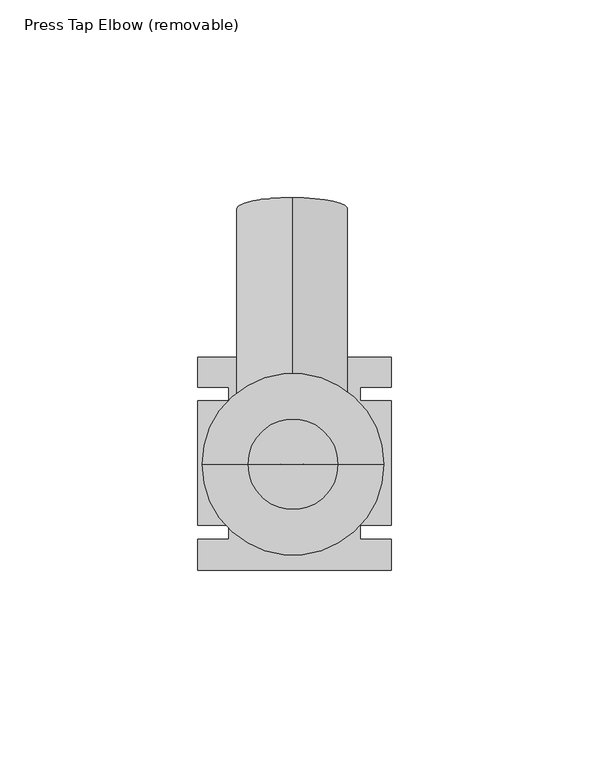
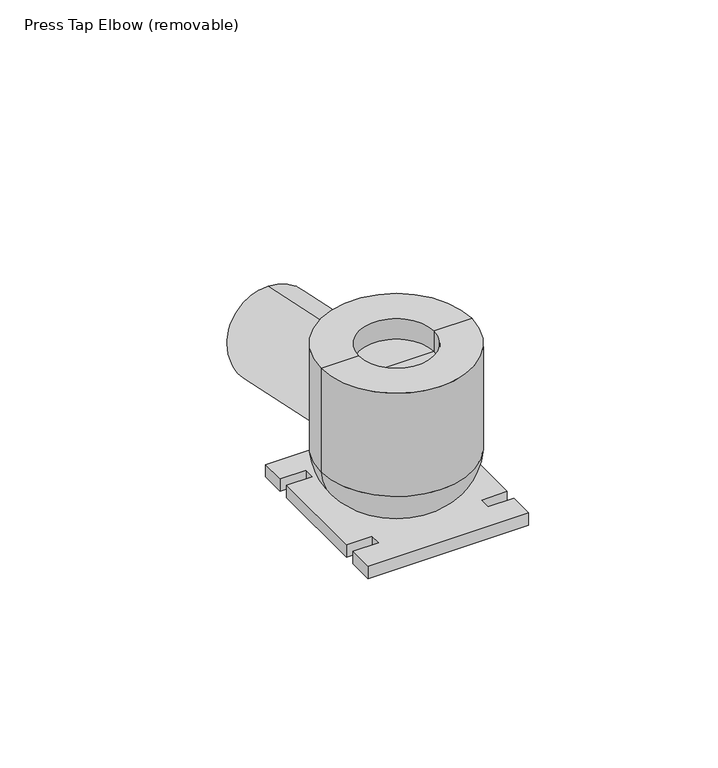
"""IFC4 building model written with IfcOpenShell, lengths in millimetres: pipe fitting geometry, Press Tap Elbow (removable) : Superpipe Press Tap Elbow (removable) - 16x½”."""

from ifc_helpers import new_model, si_unit, point, frame, origin, origin_with_axes, place, context, project, spatial, polyline, circle_curve, ellipse_curve, trimmed, outline, extrude, source, transform, mapped, element, save
from ifc_brep_helpers import plane_surface, cylinder_surface, revolved_surface, advanced_brep


def press_tap_elbow_removable_49ef6048(model_context):
    return source(origin(), model_context, "Body", "SolidModel", [
        advanced_brep(
        [(2.4152274, 43.1449183, 12.9316455), (2.4152274, 45.7949277, 25.3989597), (2.4152274, 44.469923, 19.1653026), (2.4152274, 14.7128573, 18.2102107), (2.4152274, 17.6739617, 32.1411115), (2.4152274, 14.530116, 17.3504803), (2.4152274, 17.856703, 33.0008419), (2.4152274, -1.7040097, 20.8011503), (2.4152274, 1.6225773, 36.4515119), (2.4152274, -2.3693271, 17.6710779), (2.4152274, 2.2878947, 39.5815842), (2.4152274, 62.2831048, 3.9287793), (2.4152274, 66.9403267, 25.8392855), (2.4152274, 61.7009521, 1.189966), (2.4152274, 67.5224794, 28.5780988), (2.4152274, -5.7675532, 15.5308395), (2.4152274, 0.0539741, 42.9189723), (2.4152274, 0.0539741, 28.606204)],
        [
            (0, 1, circle_curve(frame((2.4152274, 44.469923, 19.1653026), z_axis=(0.0, 0.9781476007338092, -0.20791169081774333), x_axis=(0.0, 0.20791169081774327, 0.978147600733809)), 6.3729207)),
            (1, 2),
            (2, 0),
            (1, 0, circle_curve(frame((2.4152274, 44.469923, 19.1653026), z_axis=(0.0, 0.9781476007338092, -0.20791169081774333), x_axis=(0.0, 0.20791169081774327, 0.978147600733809)), 6.3729207)),
            (3, 4, circle_curve(frame((2.4152274, 16.1934095, 25.1756611), z_axis=(0.0, 0.9781476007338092, -0.20791169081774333), x_axis=(0.0, 0.20791169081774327, 0.978147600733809)), 7.1210627)),
            (4, 1),
            (0, 3),
            (4, 3, circle_curve(frame((2.4152274, 16.1934095, 25.1756611), z_axis=(0.0, 0.9781476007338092, -0.20791169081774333), x_axis=(0.0, 0.20791169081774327, 0.978147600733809)), 7.1210627)),
            (5, 6, circle_curve(frame((2.4152274, 16.1934095, 25.1756611), z_axis=(0.0, 0.9781476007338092, -0.20791169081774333), x_axis=(0.0, 0.20791169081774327, 0.978147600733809)), 8.0)),
            (6, 4),
            (3, 5),
            (6, 5, circle_curve(frame((2.4152274, 16.1934095, 25.1756611), z_axis=(0.0, 0.9781476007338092, -0.20791169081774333), x_axis=(0.0, 0.20791169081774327, 0.978147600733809)), 8.0)),
            (7, 8, circle_curve(frame((2.4152274, -0.0407162, 28.6263311), z_axis=(0.0, 0.9781476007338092, -0.20791169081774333), x_axis=(0.0, 0.20791169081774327, 0.978147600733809)), 8.0)),
            (8, 6),
            (5, 7),
            (8, 7, circle_curve(frame((2.4152274, -0.0407162, 28.6263311), z_axis=(0.0, 0.9781476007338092, -0.20791169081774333), x_axis=(0.0, 0.20791169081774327, 0.978147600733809)), 8.0)),
            (9, 10, circle_curve(frame((2.4152274, -0.0407162, 28.6263311), z_axis=(0.0, 0.9781476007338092, -0.20791169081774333), x_axis=(0.0, 0.20791169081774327, 0.978147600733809)), 11.2)),
            (10, 8),
            (7, 9),
            (10, 9, circle_curve(frame((2.4152274, -0.0407162, 28.6263311), z_axis=(0.0, 0.9781476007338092, -0.20791169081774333), x_axis=(0.0, 0.20791169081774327, 0.978147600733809)), 11.2)),
            (11, 12, circle_curve(frame((2.4152274, 64.6117158, 14.8840324), z_axis=(0.0, 0.9781476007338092, -0.20791169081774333), x_axis=(0.0, 0.20791169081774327, 0.978147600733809)), 11.2)),
            (12, 10),
            (9, 11),
            (12, 11, circle_curve(frame((2.4152274, 64.6117158, 14.8840324), z_axis=(0.0, 0.9781476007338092, -0.20791169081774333), x_axis=(0.0, 0.20791169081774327, 0.978147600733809)), 11.2)),
            (13, 14, circle_curve(frame((2.4152274, 64.6117158, 14.8840324), z_axis=(0.0, 0.9781476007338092, -0.20791169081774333), x_axis=(0.0, 0.20791169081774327, 0.978147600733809)), 14.0)),
            (14, 12),
            (11, 13),
            (14, 13, circle_curve(frame((2.4152274, 64.6117158, 14.8840324), z_axis=(0.0, 0.9781476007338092, -0.20791169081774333), x_axis=(0.0, 0.20791169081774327, 0.978147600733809)), 14.0)),
            (15, 16, circle_curve(frame((2.4152274, -2.8567896, 29.2249059), z_axis=(0.0, 0.9781476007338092, -0.20791169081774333), x_axis=(0.0, 0.20791169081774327, 0.978147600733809)), 14.0)),
            (16, 14),
            (13, 15),
            (16, 15, circle_curve(frame((2.4152274, -2.8567896, 29.2249059), z_axis=(0.0, 0.9781476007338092, -0.20791169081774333), x_axis=(0.0, 0.20791169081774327, 0.978147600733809)), 14.0)),
            (17, 16),
            (15, 17),
        ],
        [
            plane_surface(frame((2.4152274, 44.469923, 19.1653026), z_axis=(0.0, 0.9781476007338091, -0.2079116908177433), x_axis=(0.0, 0.2079116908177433, 0.9781476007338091))),
            revolved_surface(polyline([(2.4152274, 45.7949277, 25.3989597), (2.4152274, 17.6739617, 32.1411115)]), (2.4152274, 0.0539741, 28.606204), (0.0, -0.978147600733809, 0.20791169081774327)),
            plane_surface(frame((2.4152274, 16.1934095, 25.1756611), z_axis=(0.0, 0.9781476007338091, -0.2079116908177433), x_axis=(0.0, 0.2079116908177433, 0.9781476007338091))),
            cylinder_surface(frame((2.4152274, 0.0539741, 28.606204), z_axis=(0.0, -0.978147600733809, 0.20791169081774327), x_axis=(0.0, 0.20791169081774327, 0.978147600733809)), 8.0),
            plane_surface(frame((2.4152274, -0.0407162, 28.6263311), z_axis=(0.0, 0.9781476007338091, -0.2079116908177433), x_axis=(0.0, 0.2079116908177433, 0.9781476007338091))),
            revolved_surface(polyline([(2.4152274, 2.287894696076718, 39.58158418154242), (2.4152274, 66.94032673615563, 25.839285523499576)]), (2.4152274, 0.0539741, 28.606204), (0.0, -0.978147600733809, 0.20791169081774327)),
            plane_surface(frame((2.4152274, 64.6117158, 14.8840324), z_axis=(0.0, 0.9781476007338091, -0.2079116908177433), x_axis=(0.0, 0.2079116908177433, 0.9781476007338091))),
            cylinder_surface(frame((2.4152274, 0.0539741, 28.606204), z_axis=(0.0, -0.978147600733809, 0.20791169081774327), x_axis=(0.0, 0.20791169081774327, 0.978147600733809)), 14.0),
            revolved_surface(polyline([(2.4152274, 0.0539741, 42.9189723), (2.4152274, 0.0539741, 28.606204)]), (2.4152274, 0.0539741, 28.606204), (0.0, -0.978147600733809, 0.20791169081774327)),
        ],
        [
            (0, [[1, 2, 3]]),
            (0, [[4, -3, -2]]),
            (1, [[5, 6, -1, 7]]),
            (1, [[8, -7, -4, -6]]),
            (2, [[9, 10, -5, 11]]),
            (2, [[12, -11, -8, -10]]),
            (3, [[13, 14, -9, 15]]),
            (3, [[16, -15, -12, -14]]),
            (4, [[17, 18, -13, 19]]),
            (4, [[20, -19, -16, -18]]),
            (5, [[21, 22, -17, 23]]),
            (5, [[24, -23, -20, -22]]),
            (6, [[25, 26, -21, 27]]),
            (6, [[28, -27, -24, -26]]),
            (7, [[29, 30, -25, 31]]),
            (7, [[32, -31, -28, -30]]),
            (8, [[33, -29, 34]]),
            (8, [[-34, -32, -33]]),
        ],
    ),
        advanced_brep(
        [(-20.3676279, 0.0, 51.0), (25.6323721, 0.0, 51.0), (25.6323721, 0.0, 17.7677732), (-20.3676279, 0.0, 17.7677732), (-8.8676279, 0.0, 51.0), (14.1323721, 0.0, 51.0), (-9.46949, 0.0, 4.0), (14.7342341, 0.0, 4.0), (2.6323721, 0.0, 4.0), (-8.8676279, 0.0, 44.4036288), (14.1323721, 0.0, 44.4036288), (2.6323721, 0.0, 44.4036288)],
        [
            (0, 1, circle_curve(frame((2.6323721, 0.0, 51.0), z_axis=(0.0, 0.0, -1.0), x_axis=(1.0, 0.0, 0.0)), 23.0)),
            (1, 2),
            (2, 3, circle_curve(frame((2.6323721, 0.0, 17.7677732), z_axis=(0.0, 0.0, 1.0), x_axis=(1.0, 0.0, 0.0)), 23.0)),
            (3, 0),
            (1, 0, circle_curve(frame((2.6323721, 0.0, 51.0), z_axis=(0.0, 0.0, -1.0), x_axis=(1.0, 0.0, 0.0)), 23.0)),
            (3, 2, circle_curve(frame((2.6323721, 0.0, 17.7677732), z_axis=(0.0, 0.0, 1.0), x_axis=(1.0, 0.0, 0.0)), 23.0)),
            (4, 5, circle_curve(frame((2.6323721, 0.0, 51.0), z_axis=(0.0, 0.0, -1.0), x_axis=(1.0, 0.0, 0.0)), 11.5)),
            (5, 1),
            (0, 4),
            (5, 4, circle_curve(frame((2.6323721, 0.0, 51.0), z_axis=(0.0, 0.0, -1.0), x_axis=(1.0, 0.0, 0.0)), 11.5)),
            (6, 7, circle_curve(frame((2.6323721, 0.0, 4.0), z_axis=(0.0, 0.0, -1.0), x_axis=(1.0, 0.0, 0.0)), 12.1018621)),
            (7, 8),
            (8, 6),
            (7, 6, circle_curve(frame((2.6323721, 0.0, 4.0), z_axis=(0.0, 0.0, -1.0), x_axis=(1.0, 0.0, 0.0)), 12.1018621)),
            (2, 7, circle_curve(frame((10.7084461, 0.0, 18.3838866), z_axis=(0.0, 1.0, 0.0), x_axis=(1.0, 0.0, 0.0)), 14.9366383)),
            (6, 3, circle_curve(frame((-5.4437019, 0.0, 18.3838866), z_axis=(0.0, 1.0, 0.0), x_axis=(-1.0, 0.0, 0.0)), 14.9366383)),
            (9, 10, circle_curve(frame((2.6323721, 0.0, 44.4036288), z_axis=(0.0, 0.0, -1.0), x_axis=(1.0, 0.0, 0.0)), 11.5)),
            (10, 5),
            (4, 9),
            (10, 9, circle_curve(frame((2.6323721, 0.0, 44.4036288), z_axis=(0.0, 0.0, -1.0), x_axis=(1.0, 0.0, 0.0)), 11.5)),
            (11, 10),
            (9, 11),
        ],
        [
            cylinder_surface(frame((2.6323721, 0.0, 41.0), z_axis=(0.0, 0.0, 1.0), x_axis=(1.0, 0.0, 0.0)), 23.0),
            plane_surface(frame((2.6323721, 0.0, 51.0), z_axis=(0.0, 0.0, 1.0), x_axis=(1.0, 0.0, 0.0))),
            plane_surface(frame((2.6323721, 0.0, 4.0), z_axis=(0.0, 0.0, -1.0), x_axis=(1.0, 0.0, 0.0))),
            revolved_surface(trimmed(ellipse_curve(frame((10.7084461, 0.0, 18.3838866), z_axis=(0.0, -1.0, 0.0), x_axis=(1.0, 0.0, 0.0)), 14.9366383, 14.9366383), [point((14.7342341, 0.0, 4.0))], [point((25.6323721, 0.0, 17.7677732))], True, "CARTESIAN"), (2.6323721, 0.0, 41.0), (0.0, 0.0, 1.0)),
            revolved_surface(polyline([(14.1323721, 0.0, 51.0), (14.1323721, 0.0, 44.4036288)]), (2.6323721, 0.0, 41.0), (0.0, 0.0, 1.0)),
            plane_surface(frame((2.6323721, 0.0, 44.4036288), z_axis=(0.0, 0.0, 1.0), x_axis=(1.0, 0.0, 0.0))),
        ],
        [
            (0, [[1, 2, 3, 4]]),
            (0, [[5, -4, 6, -2]]),
            (1, [[7, 8, -1, 9]]),
            (1, [[10, -9, -5, -8]]),
            (2, [[11, 12, 13]]),
            (2, [[14, -13, -12]]),
            (3, [[-3, 15, -11, 16]]),
            (3, [[-6, -16, -14, -15]]),
            (4, [[17, 18, -7, 19]]),
            (4, [[20, -19, -10, -18]]),
            (5, [[21, -17, 22]]),
            (5, [[-22, -20, -21]]),
        ],
    ),
        extrude(outline(polyline([(27.46517, -26.8722665), (-21.53483, -26.8722665), (-21.53483, -19.013932), (-13.6809295, -19.013932), (-13.6809295, -15.4796768), (-21.53483, -15.4796768), (-21.53483, 16.1322728), (-13.6809295, 16.1322728), (-13.6809295, 19.4701805), (-21.53483, 19.4701805), (-21.53483, 27.1277335), (27.46517, 27.1277335), (27.46517, 19.4701805), (19.6112695, 19.4701805), (19.6112695, 16.1322728), (27.46517, 16.1322728), (27.46517, -15.4796768), (19.6112695, -15.4796768), (19.6112695, -19.013932), (27.46517, -19.013932), (27.46517, -26.8722665)])), origin_with_axes(), (0.0, 0.0, 1.0), 4.0),
    ])


if __name__ == "__main__":
    model = new_model("IFC4")
    model_context = context("Model", 3, world=origin())
    ifc_project = project(units=[si_unit("LENGTHUNIT", "METRE", prefix="MILLI")], contexts=[model_context])
    site = spatial("IfcSite", under=ifc_project)
    building = spatial("IfcBuilding", under=site)
    placement = place(None, origin())
    press_tap_elbow_removable_shape = press_tap_elbow_removable_49ef6048(model_context)
    element("IfcPipeFitting", 1, ObjectType="Press Tap Elbow (removable) : Superpipe Press Tap Elbow (removable) - 16x½”", at=placement, inside=building, context=model_context, shape_type="MappedRepresentation", body=[
        mapped(press_tap_elbow_removable_shape, transform((0.0, 0.0, 0.0), x_axis=(1.0, 0.0, 0.0), y_axis=(0.0, 1.0, 0.0), z_axis=(0.0, 0.0, 1.0))),
    ])
    save(model, "model.ifc")
